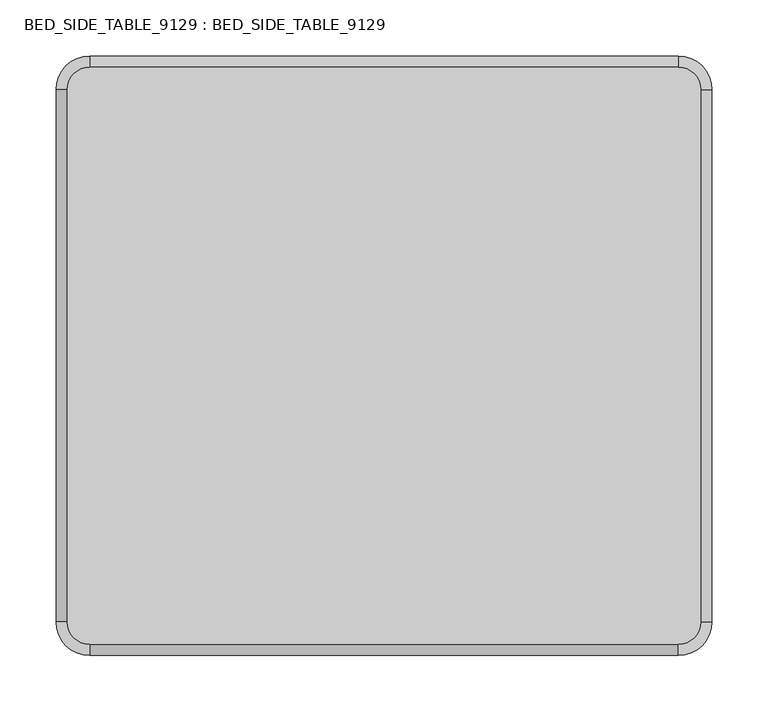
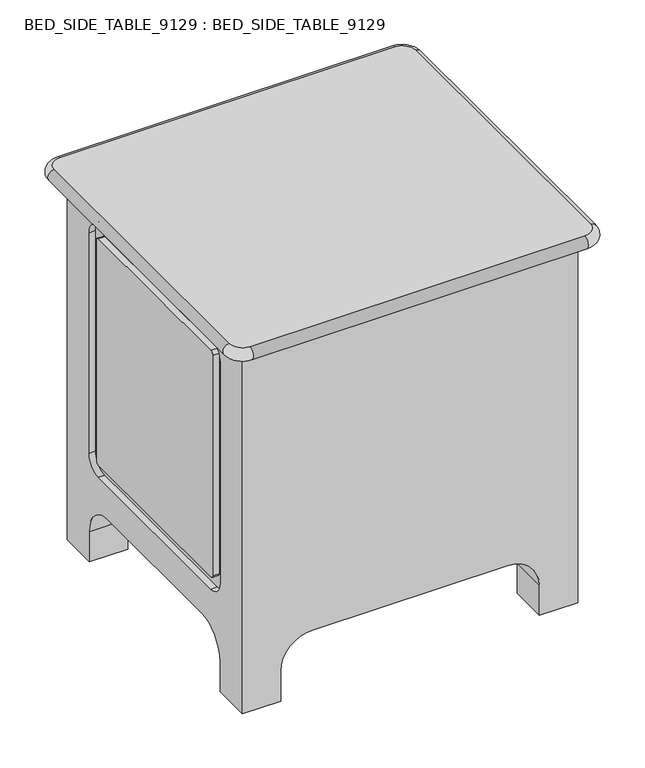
"""IFC4 building model written with IfcOpenShell, lengths in millimetres: furniture geometry, BED_SIDE_TABLE_9129 : BED_SIDE_TABLE_9129."""

from ifc_helpers import new_model, si_unit, point, frame, origin, place, context, project, spatial, polyline, circle_curve, ellipse_curve, trimmed, source, transform, mapped, element, save
from ifc_brep_helpers import plane_surface, cylinder_surface, revolved_surface, advanced_brep


def bed_side_table_9129_bed_side_table_9129_c77a05bd(model_context):
    return source(origin(), model_context, "Body", "AdvancedBrep", [
        advanced_brep(
        [(64.1710576, 215.7220246, 258.3333333), (64.1710576, 215.7220246, 250.9546193), (64.1710576, 215.7220246, 265.7120474), (11.6566154, 215.7220246, 250.9546193), (11.6566154, 215.7220246, 258.3333333), (11.6566154, 215.7220246, 265.7120474)],
        [
            (0, 1),
            (1, 2, circle_curve(frame((64.1710576, 215.7220246, 258.3333333), z_axis=(1.0, 0.0, 0.0), x_axis=(0.0, 0.0, 1.0)), 7.378714)),
            (2, 0),
            (2, 1, circle_curve(frame((64.1710576, 215.7220246, 258.3333333), z_axis=(1.0, 0.0, 0.0), x_axis=(0.0, 0.0, 1.0)), 7.378714)),
            (3, 4),
            (4, 5),
            (5, 3, circle_curve(frame((11.6566154, 215.7220246, 258.3333333), z_axis=(-1.0, 0.0, 0.0), x_axis=(0.0, 0.0, 1.0)), 7.378714)),
            (3, 5, circle_curve(frame((11.6566154, 215.7220246, 258.3333333), z_axis=(-1.0, 0.0, 0.0), x_axis=(0.0, 0.0, 1.0)), 7.378714)),
            (1, 3),
            (5, 2),
        ],
        [
            plane_surface(frame((64.1710576, 215.7220246, 258.3333333), z_axis=(1.0, 0.0, 0.0), x_axis=(0.0, 0.0, 1.0))),
            plane_surface(frame((11.6566154, 215.7220246, 258.3333333), z_axis=(-1.0, 0.0, 0.0), x_axis=(0.0, 0.0, 1.0))),
            cylinder_surface(frame((36.6566154, 215.7220246, 258.3333333), z_axis=(1.0, 0.0, 0.0), x_axis=(0.0, 0.0, 1.0)), 7.378714),
        ],
        [
            (0, [[1, 2, 3]]),
            (0, [[-3, 4, -1]]),
            (1, [[5, 6, 7]]),
            (1, [[-6, -5, 8]]),
            (2, [[9, -7, 10, -2]]),
            (2, [[-10, -8, -9, -4]]),
        ],
    ),
        advanced_brep(
        [(64.1710576, 215.7220246, 396.6666667), (64.1710576, 215.7220246, 389.2879526), (64.1710576, 215.7220246, 404.0453807), (11.6566154, 215.7220246, 389.2879526), (11.6566154, 215.7220246, 396.6666667), (11.6566154, 215.7220246, 404.0453807)],
        [
            (0, 1),
            (1, 2, circle_curve(frame((64.1710576, 215.7220246, 396.6666667), z_axis=(1.0, 0.0, 0.0), x_axis=(0.0, 0.0, 1.0)), 7.378714)),
            (2, 0),
            (2, 1, circle_curve(frame((64.1710576, 215.7220246, 396.6666667), z_axis=(1.0, 0.0, 0.0), x_axis=(0.0, 0.0, 1.0)), 7.378714)),
            (3, 4),
            (4, 5),
            (5, 3, circle_curve(frame((11.6566154, 215.7220246, 396.6666667), z_axis=(-1.0, 0.0, 0.0), x_axis=(0.0, 0.0, 1.0)), 7.378714)),
            (3, 5, circle_curve(frame((11.6566154, 215.7220246, 396.6666667), z_axis=(-1.0, 0.0, 0.0), x_axis=(0.0, 0.0, 1.0)), 7.378714)),
            (1, 3),
            (5, 2),
        ],
        [
            plane_surface(frame((64.1710576, 215.7220246, 396.6666667), z_axis=(1.0, 0.0, 0.0), x_axis=(0.0, 0.0, 1.0))),
            plane_surface(frame((11.6566154, 215.7220246, 396.6666667), z_axis=(-1.0, 0.0, 0.0), x_axis=(0.0, 0.0, 1.0))),
            cylinder_surface(frame((36.6566154, 215.7220246, 396.6666667), z_axis=(1.0, 0.0, 0.0), x_axis=(0.0, 0.0, 1.0)), 7.378714),
        ],
        [
            (0, [[1, 2, 3]]),
            (0, [[-3, 4, -1]]),
            (1, [[5, 6, 7]]),
            (1, [[-6, -5, 8]]),
            (2, [[9, -7, 10, -2]]),
            (2, [[-10, -8, -9, -4]]),
        ],
    ),
        advanced_brep(
        [(64.1710576, 215.7220246, 535.0), (64.1710576, 215.7220246, 527.621286), (64.1710576, 215.7220246, 542.378714), (11.6566154, 215.7220246, 527.621286), (11.6566154, 215.7220246, 535.0), (11.6566154, 215.7220246, 542.378714)],
        [
            (0, 1),
            (1, 2, circle_curve(frame((64.1710576, 215.7220246, 535.0), z_axis=(1.0, 0.0, 0.0), x_axis=(0.0, 0.0, 1.0)), 7.378714)),
            (2, 0),
            (2, 1, circle_curve(frame((64.1710576, 215.7220246, 535.0), z_axis=(1.0, 0.0, 0.0), x_axis=(0.0, 0.0, 1.0)), 7.378714)),
            (3, 4),
            (4, 5),
            (5, 3, circle_curve(frame((11.6566154, 215.7220246, 535.0), z_axis=(-1.0, 0.0, 0.0), x_axis=(0.0, 0.0, 1.0)), 7.378714)),
            (3, 5, circle_curve(frame((11.6566154, 215.7220246, 535.0), z_axis=(-1.0, 0.0, 0.0), x_axis=(0.0, 0.0, 1.0)), 7.378714)),
            (1, 3),
            (5, 2),
        ],
        [
            plane_surface(frame((64.1710576, 215.7220246, 535.0), z_axis=(1.0, 0.0, 0.0), x_axis=(0.0, 0.0, 1.0))),
            plane_surface(frame((11.6566154, 215.7220246, 535.0), z_axis=(-1.0, 0.0, 0.0), x_axis=(0.0, 0.0, 1.0))),
            cylinder_surface(frame((36.6566154, 215.7220246, 535.0), z_axis=(1.0, 0.0, 0.0), x_axis=(0.0, 0.0, 1.0)), 7.378714),
        ],
        [
            (0, [[1, 2, 3]]),
            (0, [[-3, 4, -1]]),
            (1, [[5, 6, 7]]),
            (1, [[-6, -5, 8]]),
            (2, [[9, -7, 10, -2]]),
            (2, [[-10, -8, -9, -4]]),
        ],
    ),
        advanced_brep(
        [(242.5, 190.0292073, 565.0), (-162.5, 190.0292073, 565.0), (-162.5, 190.0292073, 436.6666667), (242.5, 190.0292073, 436.6666667), (-143.0943818, 210.0292073, 545.5943818), (223.0943818, 210.0292073, 545.5943818), (223.0943818, 210.0292073, 456.0722849), (-143.0943818, 210.0292073, 456.0722849), (242.5, 194.8688336, 436.6666667), (242.5, 194.8688336, 565.0), (-162.5, 194.8688336, 436.6666667), (-162.5, 194.8688336, 565.0)],
        [
            (0, 1),
            (1, 2),
            (2, 3),
            (3, 0),
            (4, 5),
            (5, 6),
            (6, 7),
            (7, 4),
            (3, 8),
            (8, 9),
            (9, 0),
            (2, 10),
            (10, 8),
            (1, 11),
            (11, 10),
            (9, 11),
            (11, 4, ellipse_curve(frame((-143.0943818, 190.0292073, 545.5943818), z_axis=(-0.7071067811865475, 0.0, -0.7071067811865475), x_axis=(0.7071067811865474, 0.0, -0.7071067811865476)), 28.2842712, 20.0)),
            (7, 10, ellipse_curve(frame((-143.0943818, 190.0292073, 456.0722849), z_axis=(-0.7071067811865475, 0.0, 0.7071067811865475), x_axis=(-0.7071067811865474, 0.0, -0.7071067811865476)), 28.2842712, 20.0)),
            (6, 8, ellipse_curve(frame((223.0943818, 190.0292073, 456.0722849), z_axis=(-0.7071067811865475, 0.0, -0.7071067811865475), x_axis=(0.7071067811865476, 0.0, -0.7071067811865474)), 28.2842712, 20.0)),
            (5, 9, ellipse_curve(frame((223.0943818, 190.0292073, 545.5943818), z_axis=(0.7071067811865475, 0.0, -0.7071067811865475), x_axis=(0.7071067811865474, 0.0, 0.7071067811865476)), 28.2842712, 20.0)),
        ],
        [
            plane_surface(frame((242.5, 190.0292073, 565.0), z_axis=(0.0, -1.0, 0.0), x_axis=(0.0, 0.0, -1.0))),
            plane_surface(frame((242.5, 210.0292073, 565.0), z_axis=(0.0, 1.0, 0.0), x_axis=(0.0, 0.0, 1.0))),
            plane_surface(frame((242.5, 190.0292073, 565.0), z_axis=(1.0, 0.0, 0.0), x_axis=(0.0, 1.0, 0.0))),
            plane_surface(frame((242.5, 190.0292073, 436.6666667), z_axis=(0.0, 0.0, -1.0), x_axis=(0.0, 1.0, 0.0))),
            plane_surface(frame((-162.5, 190.0292073, 436.6666667), z_axis=(-1.0, 0.0, 0.0), x_axis=(0.0, 1.0, 0.0))),
            plane_surface(frame((-162.5, 190.0292073, 565.0), z_axis=(0.0, 0.0, 1.0), x_axis=(0.0, 1.0, 0.0))),
            cylinder_surface(frame((-143.0943818, 190.0292073, 565.0), z_axis=(0.0, 0.0, -1.0), x_axis=(0.0, 1.0, 0.0)), 20.0),
            cylinder_surface(frame((-162.5, 190.0292073, 456.0722849), z_axis=(1.0, 0.0, 0.0), x_axis=(0.0, 1.0, 0.0)), 20.0),
            cylinder_surface(frame((223.0943818, 190.0292073, 436.6666667), z_axis=(0.0, 0.0, 1.0), x_axis=(0.0, 1.0, 0.0)), 20.0),
            cylinder_surface(frame((242.5, 190.0292073, 545.5943818), z_axis=(-1.0, 0.0, 0.0), x_axis=(0.0, 1.0, 0.0)), 20.0),
        ],
        [
            (0, [[1, 2, 3, 4]]),
            (1, [[5, 6, 7, 8]]),
            (2, [[9, 10, 11, -4]]),
            (3, [[12, 13, -9, -3]]),
            (4, [[14, 15, -12, -2]]),
            (5, [[-11, 16, -14, -1]]),
            (6, [[-15, 17, -8, 18]]),
            (7, [[-13, -18, -7, 19]]),
            (8, [[-10, -19, -6, 20]]),
            (9, [[-5, -17, -16, -20]]),
        ],
    ),
        advanced_brep(
        [(-162.5, 190.0292073, 298.3333333), (242.5, 190.0292073, 298.3333333), (242.5, 190.0292073, 426.6666667), (-162.5, 190.0292073, 426.6666667), (-142.5, 210.0292073, 406.6666667), (222.5, 210.0292073, 406.6666667), (222.5, 210.0292073, 318.3333333), (-142.5, 210.0292073, 318.3333333)],
        [
            (0, 1),
            (1, 2),
            (2, 3),
            (3, 0),
            (4, 5),
            (5, 6),
            (6, 7),
            (7, 4),
            (3, 4, ellipse_curve(frame((-142.5, 190.0292073, 406.6666667), z_axis=(-0.7071067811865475, 0.0, -0.7071067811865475), x_axis=(0.7071067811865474, 0.0, -0.7071067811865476)), 28.2842712, 20.0)),
            (7, 0, ellipse_curve(frame((-142.5, 190.0292073, 318.3333333), z_axis=(-0.7071067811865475, 0.0, 0.7071067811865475), x_axis=(-0.7071067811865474, 0.0, -0.7071067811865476)), 28.2842712, 20.0)),
            (6, 1, ellipse_curve(frame((222.5, 190.0292073, 318.3333333), z_axis=(-0.7071067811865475, 0.0, -0.7071067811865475), x_axis=(0.7071067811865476, 0.0, -0.7071067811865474)), 28.2842712, 20.0)),
            (5, 2, ellipse_curve(frame((222.5, 190.0292073, 406.6666667), z_axis=(0.7071067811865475, 0.0, -0.7071067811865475), x_axis=(0.7071067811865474, 0.0, 0.7071067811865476)), 28.2842712, 20.0)),
        ],
        [
            plane_surface(frame((242.5, 190.0292073, 565.0), z_axis=(0.0, -1.0, 0.0), x_axis=(0.0, 0.0, -1.0))),
            plane_surface(frame((242.5, 210.0292073, 565.0), z_axis=(0.0, 1.0, 0.0), x_axis=(0.0, 0.0, 1.0))),
            cylinder_surface(frame((-142.5, 190.0292073, 426.6666667), z_axis=(0.0, 0.0, -1.0), x_axis=(0.0, 1.0, 0.0)), 20.0),
            cylinder_surface(frame((-162.5, 190.0292073, 318.3333333), z_axis=(1.0, 0.0, 0.0), x_axis=(0.0, 1.0, 0.0)), 20.0),
            cylinder_surface(frame((222.5, 190.0292073, 298.3333333), z_axis=(0.0, 0.0, 1.0), x_axis=(0.0, 1.0, 0.0)), 20.0),
            cylinder_surface(frame((242.5, 190.0292073, 406.6666667), z_axis=(-1.0, 0.0, 0.0), x_axis=(0.0, 1.0, 0.0)), 20.0),
        ],
        [
            (0, [[1, 2, 3, 4]]),
            (1, [[5, 6, 7, 8]]),
            (2, [[-4, 9, -8, 10]]),
            (3, [[-7, 11, -1, -10]]),
            (4, [[-6, 12, -2, -11]]),
            (5, [[-3, -12, -5, -9]]),
        ],
    ),
        advanced_brep(
        [(-162.5, 190.0292073, 155.0), (242.5, 190.0292073, 155.0), (242.5, 190.0292073, 288.3333333), (-162.5, 190.0292073, 288.3333333), (-142.5, 210.0292073, 268.3333333), (222.5, 210.0292073, 268.3333333), (222.5, 210.0292073, 175.0), (-142.5, 210.0292073, 175.0)],
        [
            (0, 1),
            (1, 2),
            (2, 3),
            (3, 0),
            (4, 5),
            (5, 6),
            (6, 7),
            (7, 4),
            (3, 4, ellipse_curve(frame((-142.5, 190.0292073, 268.3333333), z_axis=(-0.707106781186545, 0.0, -0.7071067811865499), x_axis=(0.7071067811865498, 0.0, -0.7071067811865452)), 28.2842712, 20.0)),
            (7, 0, ellipse_curve(frame((-142.5, 190.0292073, 175.0), z_axis=(-0.7071067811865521, 0.0, 0.7071067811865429), x_axis=(-0.7071067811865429, 0.0, -0.7071067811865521)), 28.2842712, 20.0)),
            (6, 1, ellipse_curve(frame((222.5, 190.0292073, 175.0), z_axis=(-0.7071067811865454, 0.0, -0.7071067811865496), x_axis=(0.7071067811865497, 0.0, -0.7071067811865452)), 28.2842712, 20.0)),
            (5, 2, ellipse_curve(frame((222.5, 190.0292073, 268.3333333), z_axis=(0.7071067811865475, 0.0, -0.7071067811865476), x_axis=(0.7071067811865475, 0.0, 0.7071067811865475)), 28.2842712, 20.0)),
        ],
        [
            plane_surface(frame((242.5, 190.0292073, 565.0), z_axis=(0.0, -1.0, 0.0), x_axis=(0.0, 0.0, -1.0))),
            plane_surface(frame((242.5, 210.0292073, 565.0), z_axis=(0.0, 1.0, 0.0), x_axis=(0.0, 0.0, 1.0))),
            cylinder_surface(frame((-142.5, 190.0292073, 288.3333333), z_axis=(0.0, 0.0, -1.0), x_axis=(0.0, 1.0, 0.0)), 20.0),
            cylinder_surface(frame((-162.5, 190.0292073, 175.0), z_axis=(1.0, 0.0, 0.0), x_axis=(0.0, 1.0, 0.0)), 20.0),
            cylinder_surface(frame((222.5, 190.0292073, 155.0), z_axis=(0.0, 0.0, 1.0), x_axis=(0.0, 1.0, 0.0)), 20.0),
            cylinder_surface(frame((242.5, 190.0292073, 268.3333333), z_axis=(-1.0, 0.0, 0.0), x_axis=(0.0, 1.0, 0.0)), 20.0),
        ],
        [
            (0, [[1, 2, 3, 4]]),
            (1, [[5, 6, 7, 8]]),
            (2, [[-4, 9, -8, 10]]),
            (3, [[-7, 11, -1, -10]]),
            (4, [[-6, 12, -2, -11]]),
            (5, [[-3, -12, -5, -9]]),
        ],
    ),
        advanced_brep(
        [(-242.5, -274.9707927, 600.0), (-242.5, 200.0292073, 600.0), (-222.5, 220.0292073, 600.0), (302.5, 220.0292073, 600.0), (322.5, 200.0292073, 600.0), (322.5, -274.9707927, 600.0), (302.5, -294.9707927, 600.0), (-222.5, -294.9707927, 600.0), (-222.5, -294.9707927, 620.0), (302.5, -294.9707927, 620.0), (322.5, -274.9707927, 620.0), (322.5, 200.0292073, 620.0), (302.5, 220.0292073, 620.0), (-222.5, 220.0292073, 620.0), (-242.5, 200.0292073, 620.0), (-242.5, -274.9707927, 620.0), (-252.5, -274.9707927, 610.0000126), (-222.5, -304.9707927, 610.0000125), (-252.5, 200.0292073, 610.0), (-222.5, 230.0292073, 610.0000126), (302.5, 230.0292073, 610.0), (332.5, 200.0292073, 610.0000125), (332.5, -274.9707927, 610.0), (302.5, -304.9707927, 610.00001)],
        [
            (0, 1),
            (1, 2, circle_curve(frame((-222.5, 200.0292073, 600.0), z_axis=(0.0, 0.0, -1.0), x_axis=(-1.0, 0.0, 0.0)), 20.0)),
            (2, 3),
            (3, 4, circle_curve(frame((302.5, 200.0292073, 600.0), z_axis=(0.0, 0.0, -1.0), x_axis=(0.0, 1.0, 0.0)), 20.0)),
            (4, 5),
            (5, 6, circle_curve(frame((302.5, -274.9707927, 600.0), z_axis=(0.0, 0.0, -1.0), x_axis=(1.0, 0.0, 0.0)), 20.0)),
            (6, 7),
            (7, 0, circle_curve(frame((-222.5, -274.9707927, 600.0), z_axis=(0.0, 0.0, -1.0), x_axis=(0.0, -1.0, 0.0)), 20.0)),
            (8, 9),
            (9, 10, circle_curve(frame((302.5, -274.9707927, 620.0), z_axis=(0.0, 0.0, 1.0), x_axis=(1.0, 0.0, 0.0)), 20.0)),
            (10, 11),
            (11, 12, circle_curve(frame((302.5, 200.0292073, 620.0), z_axis=(0.0, 0.0, 1.0), x_axis=(0.0, 1.0, 0.0)), 20.0)),
            (12, 13),
            (13, 14, circle_curve(frame((-222.5, 200.0292073, 620.0), z_axis=(0.0, 0.0, 1.0), x_axis=(-1.0, 0.0, 0.0)), 20.0)),
            (14, 15),
            (15, 8, circle_curve(frame((-222.5, -274.9707927, 620.0), z_axis=(0.0, 0.0, 1.0), x_axis=(0.0, -1.0, 0.0)), 20.0)),
            (15, 16, circle_curve(frame((-242.5, -274.9707927, 610.0), z_axis=(0.0, -1.0, 0.0), x_axis=(1.0, 0.0, 0.0)), 10.0)),
            (16, 0, circle_curve(frame((-242.5, -274.9707927, 610.0), z_axis=(0.0, -1.0, 0.0), x_axis=(1.0, 0.0, 0.0)), 10.0)),
            (7, 17, circle_curve(frame((-222.5, -294.9707927, 610.0), z_axis=(-1.0, 0.0, 0.0), x_axis=(0.0, 1.0, 0.0)), 10.0)),
            (17, 8, circle_curve(frame((-222.5, -294.9707927, 610.0), z_axis=(-1.0, 0.0, 0.0), x_axis=(0.0, 1.0, 0.0)), 10.0)),
            (14, 18, circle_curve(frame((-242.5, 200.0292073, 610.0), z_axis=(0.0, -1.0, 0.0), x_axis=(1.0, 0.0, 0.0)), 10.0)),
            (18, 1, circle_curve(frame((-242.5, 200.0292073, 610.0), z_axis=(0.0, -1.0, 0.0), x_axis=(1.0, 0.0, 0.0)), 10.0)),
            (13, 19, circle_curve(frame((-222.5, 220.0292073, 610.0), z_axis=(-1.0, 0.0, 0.0), x_axis=(0.0, -1.0, 0.0)), 10.0)),
            (19, 2, circle_curve(frame((-222.5, 220.0292073, 610.0), z_axis=(-1.0, 0.0, 0.0), x_axis=(0.0, -1.0, 0.0)), 10.0)),
            (12, 20, circle_curve(frame((302.5, 220.0292073, 610.0), z_axis=(-1.0, 0.0, 0.0), x_axis=(0.0, -1.0, 0.0)), 10.0)),
            (20, 3, circle_curve(frame((302.5, 220.0292073, 610.0), z_axis=(-1.0, 0.0, 0.0), x_axis=(0.0, -1.0, 0.0)), 10.0)),
            (11, 21, circle_curve(frame((322.5, 200.0292073, 610.0), z_axis=(0.0, 1.0, 0.0), x_axis=(-1.0, 0.0, 0.0)), 10.0)),
            (21, 4, circle_curve(frame((322.5, 200.0292073, 610.0), z_axis=(0.0, 1.0, 0.0), x_axis=(-1.0, 0.0, 0.0)), 10.0)),
            (10, 22, circle_curve(frame((322.5, -274.9707927, 610.0), z_axis=(0.0, 1.0, 0.0), x_axis=(-1.0, 0.0, 0.0)), 10.0)),
            (22, 5, circle_curve(frame((322.5, -274.9707927, 610.0), z_axis=(0.0, 1.0, 0.0), x_axis=(-1.0, 0.0, 0.0)), 10.0)),
            (9, 23, circle_curve(frame((302.5, -294.9707927, 610.0), z_axis=(1.0, 0.0, 0.0), x_axis=(0.0, 1.0, 0.0)), 10.0)),
            (23, 6, circle_curve(frame((302.5, -294.9707927, 610.0), z_axis=(1.0, 0.0, 0.0), x_axis=(0.0, 1.0, 0.0)), 10.0)),
        ],
        [
            plane_surface(frame((-222.5, -304.9707927, 600.0), z_axis=(0.0, 0.0, -1.0), x_axis=(1.0, 0.0, 0.0))),
            plane_surface(frame((-222.5, -304.9707927, 620.0), z_axis=(0.0, 0.0, 1.0), x_axis=(-1.0, 0.0, 0.0))),
            revolved_surface(trimmed(ellipse_curve(frame((-222.5, -294.9707927, 610.0), z_axis=(-1.0, 0.0, 0.0), x_axis=(0.0, 1.0, 0.0)), 10.0, 10.0), [point((-222.5, -294.9707927, 600.0))], [point((-222.5, -294.9707927, 620.0))], True, "CARTESIAN"), (-222.5, -274.9707927, 620.0), (0.0, 0.0, 1.0)),
            cylinder_surface(frame((-242.5, -274.9707927, 610.0), z_axis=(0.0, 1.0, 0.0), x_axis=(1.0, 0.0, 0.0)), 10.0),
            revolved_surface(trimmed(ellipse_curve(frame((-242.5, 200.0292073, 610.0), z_axis=(0.0, 1.0, 0.0), x_axis=(1.0, 0.0, 0.0)), 10.0, 10.0), [point((-242.5, 200.0292073, 600.0))], [point((-242.5, 200.0292073, 620.0))], True, "CARTESIAN"), (-222.5, 200.0292073, 620.0), (0.0, 0.0, 1.0)),
            cylinder_surface(frame((-222.5, 220.0292073, 610.0), z_axis=(1.0, 0.0, 0.0), x_axis=(0.0, -1.0, 0.0)), 10.0),
            revolved_surface(trimmed(ellipse_curve(frame((302.5, 220.0292073, 610.0), z_axis=(1.0, 0.0, 0.0), x_axis=(0.0, -1.0, 0.0)), 10.0, 10.0), [point((302.5, 220.0292073, 600.0))], [point((302.5, 220.0292073, 620.0))], True, "CARTESIAN"), (302.5, 200.0292073, 620.0), (0.0, 0.0, 1.0)),
            cylinder_surface(frame((322.5, 200.0292073, 610.0), z_axis=(0.0, -1.0, 0.0), x_axis=(-1.0, 0.0, 0.0)), 10.0),
            revolved_surface(trimmed(ellipse_curve(frame((322.5, -274.9707927, 610.0), z_axis=(0.0, -1.0, 0.0), x_axis=(-1.0, 0.0, 0.0)), 10.0, 10.0), [point((322.5, -274.9707927, 600.0))], [point((322.5, -274.9707927, 620.0))], True, "CARTESIAN"), (302.5, -274.9707927, 620.0), (0.0, 0.0, 1.0)),
            cylinder_surface(frame((302.5, -294.9707927, 610.0), z_axis=(-1.0, 0.0, 0.0), x_axis=(0.0, 1.0, 0.0)), 10.0),
        ],
        [
            (0, [[1, 2, 3, 4, 5, 6, 7, 8]]),
            (1, [[9, 10, 11, 12, 13, 14, 15, 16]]),
            (2, [[-16, 17, 18, -8, 19, 20]]),
            (3, [[-17, -15, 21, 22, -1, -18]]),
            (4, [[-21, -14, 23, 24, -2, -22]]),
            (5, [[-23, -13, 25, 26, -3, -24]]),
            (6, [[-25, -12, 27, 28, -4, -26]]),
            (7, [[-27, -11, 29, 30, -5, -28]]),
            (8, [[-6, -30, -29, -10, 31, 32]]),
            (9, [[-31, -9, -20, -19, -7, -32]]),
        ],
    ),
        advanced_brep(
        [(302.5, -274.9707927, 600.0), (-222.5, -274.9707927, 600.0), (-222.5, -274.9707927, 0.0), (-162.5, -274.9707927, 0.0), (-162.5, -274.9707927, 50.0), (-112.5, -274.9707927, 100.0), (192.5, -274.9707927, 100.0), (242.5, -274.9707927, 50.0), (242.5, -274.9707927, 0.0), (302.5, -274.9707927, 0.0), (302.5, 200.0292073, 600.0), (302.5, 200.0292073, 0.0), (242.5, 200.0292073, 0.0), (242.5, 200.0292073, 50.0), (192.5, 200.0292073, 100.0), (-112.5, 200.0292073, 100.0), (-162.5, 200.0292073, 50.0), (-162.5, 200.0292073, 0.0), (-222.5, 200.0292073, 0.0), (-222.5, 200.0292073, 600.0), (-182.5, 200.0292073, 580.0), (-182.5, 200.0292073, 130.0), (262.5, 200.0292073, 130.0), (262.5, 200.0292073, 580.0), (302.5, -214.9707927, 0.0), (302.5, -214.9707927, 50.0), (302.5, -164.9707927, 100.0), (302.5, 90.0292073, 100.0), (302.5, 140.0292073, 50.0), (302.5, 140.0292073, 0.0), (302.5, 115.0292073, 570.0), (302.5, 140.0292073, 545.0), (302.5, 140.0292073, 180.0), (302.5, 115.0292073, 155.0), (302.5, -189.9707927, 155.0), (302.5, -214.9707927, 180.0), (302.5, -214.9707927, 545.0), (302.5, -189.9707927, 570.0), (302.5, -189.9707927, 550.0), (302.5, -194.9707927, 545.0), (302.5, -194.9707927, 180.0), (302.5, -189.9707927, 175.0), (302.5, 115.0292073, 175.0), (302.5, 120.0292073, 180.0), (302.5, 120.0292073, 545.0), (302.5, 115.0292073, 550.0), (242.5, 140.0292073, 0.0), (-162.5, 140.0292073, 0.0), (-222.5, 140.0292073, 0.0), (242.5, -214.9707927, 0.0), (-222.5, -214.9707927, 0.0), (-162.5, -214.9707927, 0.0), (-222.5, 140.0292073, 50.0), (-222.5, 90.0292073, 100.0), (-222.5, -164.9707927, 100.0), (-222.5, -214.9707927, 50.0), (-222.5, -189.9707927, 570.0), (-222.5, -214.9707927, 545.0), (-222.5, -214.9707927, 180.0), (-222.5, -189.9707927, 155.0), (-222.5, 115.0292073, 155.0), (-222.5, 140.0292073, 180.0), (-222.5, 140.0292073, 545.0), (-222.5, 115.0292073, 570.0), (-222.5, 115.0292073, 550.0), (-222.5, 120.0292073, 545.0), (-222.5, 120.0292073, 180.0), (-222.5, 115.0292073, 175.0), (-222.5, -189.9707927, 175.0), (-222.5, -194.9707927, 180.0), (-222.5, -194.9707927, 545.0), (-222.5, -189.9707927, 550.0), (-112.5, 90.0292073, 100.0), (-162.5, 140.0292073, 50.0), (-162.5, -214.9707927, 50.0), (-112.5, -164.9707927, 100.0), (192.5, 90.0292073, 100.0), (192.5, -164.9707927, 100.0), (242.5, -214.9707927, 50.0), (242.5, 140.0292073, 50.0), (-182.5, 190.0292073, 580.0), (262.5, 190.0292073, 580.0), (262.5, 190.0292073, 130.0), (-182.5, 190.0292073, 130.0), (292.5, -189.9707927, 570.0), (292.5, -214.9707927, 545.0), (292.5, -214.9707927, 180.0), (292.5, -189.9707927, 155.0), (292.5, 115.0292073, 155.0), (292.5, 140.0292073, 180.0), (292.5, 140.0292073, 545.0), (292.5, 115.0292073, 570.0), (292.5, 115.0292073, 550.0), (292.5, 120.0292073, 545.0), (292.5, 120.0292073, 180.0), (292.5, 115.0292073, 175.0), (292.5, -189.9707927, 175.0), (292.5, -194.9707927, 180.0), (292.5, -194.9707927, 545.0), (292.5, -189.9707927, 550.0), (-212.5, -189.9707927, 570.0), (-212.5, 115.0292073, 570.0), (-212.5, 140.0292073, 545.0), (-212.5, 140.0292073, 180.0), (-212.5, 115.0292073, 155.0), (-212.5, -189.9707927, 155.0), (-212.5, -214.9707927, 180.0), (-212.5, -214.9707927, 545.0), (-212.5, 115.0292073, 550.0), (-212.5, -189.9707927, 550.0), (-212.5, -194.9707927, 545.0), (-212.5, -194.9707927, 180.0), (-212.5, -189.9707927, 175.0), (-212.5, 115.0292073, 175.0), (-212.5, 120.0292073, 180.0), (-212.5, 120.0292073, 545.0)],
        [
            (0, 1),
            (1, 2),
            (2, 3),
            (3, 4),
            (4, 5, circle_curve(frame((-112.5, -274.9707927, 50.0), z_axis=(0.0, 1.0, 0.0), x_axis=(-1.0, 0.0, 0.0)), 50.0)),
            (5, 6),
            (6, 7, circle_curve(frame((192.5, -274.9707927, 50.0), z_axis=(0.0, 1.0, 0.0), x_axis=(-1.0, 0.0, 0.0)), 50.0)),
            (7, 8),
            (8, 9),
            (9, 0),
            (10, 11),
            (11, 12),
            (12, 13),
            (13, 14, circle_curve(frame((192.5, 200.0292073, 50.0), z_axis=(0.0, -1.0, 0.0), x_axis=(-1.0, 0.0, 0.0)), 50.0)),
            (14, 15),
            (15, 16, circle_curve(frame((-112.5, 200.0292073, 50.0), z_axis=(0.0, -1.0, 0.0), x_axis=(-1.0, 0.0, 0.0)), 50.0)),
            (16, 17),
            (17, 18),
            (18, 19),
            (19, 10),
            (20, 21),
            (21, 22),
            (22, 23),
            (23, 20),
            (9, 24),
            (24, 25),
            (25, 26, circle_curve(frame((302.5, -164.9707927, 50.0), z_axis=(-1.0, 0.0, 0.0), x_axis=(0.0, -1.0, 0.0)), 50.0)),
            (26, 27),
            (27, 28, circle_curve(frame((302.5, 90.0292073, 50.0), z_axis=(-1.0, 0.0, 0.0), x_axis=(0.0, -1.0, 0.0)), 50.0)),
            (28, 29),
            (29, 11),
            (10, 0),
            (30, 31, circle_curve(frame((302.5, 115.0292073, 545.0), z_axis=(-1.0, 0.0, 0.0), x_axis=(0.0, -1.0, 0.0)), 25.0)),
            (31, 32),
            (32, 33, circle_curve(frame((302.5, 115.0292073, 180.0), z_axis=(-1.0, 0.0, 0.0), x_axis=(0.0, -1.0, 0.0)), 25.0)),
            (33, 34),
            (34, 35, circle_curve(frame((302.5, -189.9707927, 180.0), z_axis=(-1.0, 0.0, 0.0), x_axis=(0.0, -1.0, 0.0)), 25.0)),
            (35, 36),
            (36, 37, circle_curve(frame((302.5, -189.9707927, 545.0), z_axis=(-1.0, 0.0, 0.0), x_axis=(0.0, -1.0, 0.0)), 25.0)),
            (37, 30),
            (38, 39, circle_curve(frame((302.5, -189.9707927, 545.0), z_axis=(1.0, 0.0, 0.0), x_axis=(0.0, -1.0, 0.0)), 5.0)),
            (39, 40),
            (40, 41, circle_curve(frame((302.5, -189.9707927, 180.0), z_axis=(1.0, 0.0, 0.0), x_axis=(0.0, -1.0, 0.0)), 5.0)),
            (41, 42),
            (42, 43, circle_curve(frame((302.5, 115.0292073, 180.0), z_axis=(1.0, 0.0, 0.0), x_axis=(0.0, -1.0, 0.0)), 5.0)),
            (43, 44),
            (44, 45, circle_curve(frame((302.5, 115.0292073, 545.0), z_axis=(1.0, 0.0, 0.0), x_axis=(0.0, -1.0, 0.0)), 5.0)),
            (45, 38),
            (29, 46),
            (46, 12),
            (17, 47),
            (47, 48),
            (48, 18),
            (8, 49),
            (49, 24),
            (2, 50),
            (50, 51),
            (51, 3),
            (1, 19),
            (48, 52),
            (52, 53, circle_curve(frame((-222.5, 90.0292073, 50.0), z_axis=(1.0, 0.0, 0.0), x_axis=(0.0, -1.0, 0.0)), 50.0)),
            (53, 54),
            (54, 55, circle_curve(frame((-222.5, -164.9707927, 50.0), z_axis=(1.0, 0.0, 0.0), x_axis=(0.0, -1.0, 0.0)), 50.0)),
            (55, 50),
            (56, 57, circle_curve(frame((-222.5, -189.9707927, 545.0), z_axis=(1.0, 0.0, 0.0), x_axis=(0.0, -1.0, 0.0)), 25.0)),
            (57, 58),
            (58, 59, circle_curve(frame((-222.5, -189.9707927, 180.0), z_axis=(1.0, 0.0, 0.0), x_axis=(0.0, -1.0, 0.0)), 25.0)),
            (59, 60),
            (60, 61, circle_curve(frame((-222.5, 115.0292073, 180.0), z_axis=(1.0, 0.0, 0.0), x_axis=(0.0, -1.0, 0.0)), 25.0)),
            (61, 62),
            (62, 63, circle_curve(frame((-222.5, 115.0292073, 545.0), z_axis=(1.0, 0.0, 0.0), x_axis=(0.0, -1.0, 0.0)), 25.0)),
            (63, 56),
            (64, 65, circle_curve(frame((-222.5, 115.0292073, 545.0), z_axis=(-1.0, 0.0, 0.0), x_axis=(0.0, -1.0, 0.0)), 5.0)),
            (65, 66),
            (66, 67, circle_curve(frame((-222.5, 115.0292073, 180.0), z_axis=(-1.0, 0.0, 0.0), x_axis=(0.0, -1.0, 0.0)), 5.0)),
            (67, 68),
            (68, 69, circle_curve(frame((-222.5, -189.9707927, 180.0), z_axis=(-1.0, 0.0, 0.0), x_axis=(0.0, -1.0, 0.0)), 5.0)),
            (69, 70),
            (70, 71, circle_curve(frame((-222.5, -189.9707927, 545.0), z_axis=(-1.0, 0.0, 0.0), x_axis=(0.0, -1.0, 0.0)), 5.0)),
            (71, 64),
            (15, 72),
            (72, 73, ellipse_curve(frame((-112.5, 90.0292073, 50.0), z_axis=(-0.7071067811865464, -0.7071067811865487, 0.0), x_axis=(0.7071067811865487, -0.7071067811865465, 0.0)), 70.7106781, 50.0)),
            (73, 16),
            (4, 74),
            (74, 75, ellipse_curve(frame((-112.5, -164.9707927, 50.0), z_axis=(-0.7071067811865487, 0.7071067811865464, 0.0), x_axis=(-0.7071067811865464, -0.7071067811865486, 0.0)), 70.7106781, 50.0)),
            (75, 5),
            (75, 54),
            (53, 72),
            (14, 76),
            (76, 27),
            (26, 77),
            (77, 6),
            (77, 78, ellipse_curve(frame((192.5, -164.9707927, 50.0), z_axis=(0.7071067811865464, 0.7071067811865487, 0.0), x_axis=(0.7071067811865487, -0.7071067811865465, 0.0)), 70.7106781, 50.0)),
            (78, 7),
            (13, 79),
            (79, 76, ellipse_curve(frame((192.5, 90.0292073, 50.0), z_axis=(0.7071067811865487, -0.7071067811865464, 0.0), x_axis=(-0.7071067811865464, -0.7071067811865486, 0.0)), 70.7106781, 50.0)),
            (46, 79),
            (78, 49),
            (51, 74),
            (73, 47),
            (52, 73),
            (79, 28),
            (78, 25),
            (55, 74),
            (80, 81),
            (81, 82),
            (82, 83),
            (83, 80),
            (80, 20),
            (23, 81),
            (22, 82),
            (21, 83),
            (84, 85, circle_curve(frame((292.5, -189.9707927, 545.0), z_axis=(1.0, 0.0, 0.0), x_axis=(0.0, -1.0, 0.0)), 25.0)),
            (85, 86),
            (86, 87, circle_curve(frame((292.5, -189.9707927, 180.0), z_axis=(1.0, 0.0, 0.0), x_axis=(0.0, -1.0, 0.0)), 25.0)),
            (87, 88),
            (88, 89, circle_curve(frame((292.5, 115.0292073, 180.0), z_axis=(1.0, 0.0, 0.0), x_axis=(0.0, -1.0, 0.0)), 25.0)),
            (89, 90),
            (90, 91, circle_curve(frame((292.5, 115.0292073, 545.0), z_axis=(1.0, 0.0, 0.0), x_axis=(0.0, -1.0, 0.0)), 25.0)),
            (91, 84),
            (92, 93, circle_curve(frame((292.5, 115.0292073, 545.0), z_axis=(-1.0, 0.0, 0.0), x_axis=(0.0, -1.0, 0.0)), 5.0)),
            (93, 94),
            (94, 95, circle_curve(frame((292.5, 115.0292073, 180.0), z_axis=(-1.0, 0.0, 0.0), x_axis=(0.0, -1.0, 0.0)), 5.0)),
            (95, 96),
            (96, 97, circle_curve(frame((292.5, -189.9707927, 180.0), z_axis=(-1.0, 0.0, 0.0), x_axis=(0.0, -1.0, 0.0)), 5.0)),
            (97, 98),
            (98, 99, circle_curve(frame((292.5, -189.9707927, 545.0), z_axis=(-1.0, 0.0, 0.0), x_axis=(0.0, -1.0, 0.0)), 5.0)),
            (99, 92),
            (91, 30),
            (37, 84),
            (90, 31),
            (89, 32),
            (88, 33),
            (87, 34),
            (86, 35),
            (85, 36),
            (99, 38),
            (45, 92),
            (98, 39),
            (97, 40),
            (96, 41),
            (95, 42),
            (94, 43),
            (93, 44),
            (100, 101),
            (101, 102, circle_curve(frame((-212.5, 115.0292073, 545.0), z_axis=(-1.0, 0.0, 0.0), x_axis=(0.0, -1.0, 0.0)), 25.0)),
            (102, 103),
            (103, 104, circle_curve(frame((-212.5, 115.0292073, 180.0), z_axis=(-1.0, 0.0, 0.0), x_axis=(0.0, -1.0, 0.0)), 25.0)),
            (104, 105),
            (105, 106, circle_curve(frame((-212.5, -189.9707927, 180.0), z_axis=(-1.0, 0.0, 0.0), x_axis=(0.0, -1.0, 0.0)), 25.0)),
            (106, 107),
            (107, 100, circle_curve(frame((-212.5, -189.9707927, 545.0), z_axis=(-1.0, 0.0, 0.0), x_axis=(0.0, -1.0, 0.0)), 25.0)),
            (108, 109),
            (109, 110, circle_curve(frame((-212.5, -189.9707927, 545.0), z_axis=(1.0, 0.0, 0.0), x_axis=(0.0, -1.0, 0.0)), 5.0)),
            (110, 111),
            (111, 112, circle_curve(frame((-212.5, -189.9707927, 180.0), z_axis=(1.0, 0.0, 0.0), x_axis=(0.0, -1.0, 0.0)), 5.0)),
            (112, 113),
            (113, 114, circle_curve(frame((-212.5, 115.0292073, 180.0), z_axis=(1.0, 0.0, 0.0), x_axis=(0.0, -1.0, 0.0)), 5.0)),
            (114, 115),
            (115, 108, circle_curve(frame((-212.5, 115.0292073, 545.0), z_axis=(1.0, 0.0, 0.0), x_axis=(0.0, -1.0, 0.0)), 5.0)),
            (100, 56),
            (63, 101),
            (62, 102),
            (61, 103),
            (60, 104),
            (59, 105),
            (58, 106),
            (57, 107),
            (108, 64),
            (71, 109),
            (70, 110),
            (69, 111),
            (68, 112),
            (67, 113),
            (66, 114),
            (65, 115),
        ],
        [
            plane_surface(frame((302.5, -274.9707927, 600.0), z_axis=(0.0, -1.0, 0.0), x_axis=(0.0, 0.0, -1.0))),
            plane_surface(frame((302.5, 200.0292073, 600.0), z_axis=(0.0, 1.0, 0.0), x_axis=(0.0, 0.0, 1.0))),
            plane_surface(frame((302.5, -274.9707927, 600.0), z_axis=(1.0, 0.0, 0.0), x_axis=(0.0, 1.0, 0.0))),
            plane_surface(frame((302.5, -274.9707927, 0.0), z_axis=(0.0, 0.0, -1.0), x_axis=(0.0, 1.0, 0.0))),
            plane_surface(frame((-222.5, -274.9707927, 0.0), z_axis=(-1.0, 0.0, 0.0), x_axis=(0.0, 1.0, 0.0))),
            plane_surface(frame((-222.5, -274.9707927, 600.0), z_axis=(0.0, 0.0, 1.0), x_axis=(0.0, 1.0, 0.0))),
            revolved_surface(polyline([(-162.5, 40.029207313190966, 50.0), (-162.5, 200.0292073, 50.0)]), (-112.5, 200.0292073, 50.0), (0.0, -1.0, 0.0)),
            revolved_surface(polyline([(-162.5, -274.9707927, 50.0), (-162.5, -114.97079271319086, 50.0)]), (-112.5, 200.0292073, 50.0), (0.0, -1.0, 0.0)),
            plane_surface(frame((-112.5, -274.9707927, 100.0), z_axis=(0.0, 0.0, -1.0), x_axis=(0.0, 1.0, 0.0))),
            revolved_surface(polyline([(142.5, -274.9707927, 50.0), (142.5, -114.97079271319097, 50.0)]), (192.5, 200.0292073, 50.0), (0.0, -1.0, 0.0)),
            revolved_surface(polyline([(142.5, 40.029207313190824, 50.0), (142.5, 200.0292073, 50.0)]), (192.5, 200.0292073, 50.0), (0.0, -1.0, 0.0)),
            plane_surface(frame((242.5, -274.9707927, 50.0), z_axis=(-1.0, 0.0, 0.0), x_axis=(0.0, 1.0, 0.0))),
            plane_surface(frame((-162.5, -274.9707927, 0.0), z_axis=(1.0, 0.0, 0.0), x_axis=(0.0, 1.0, 0.0))),
            revolved_surface(polyline([(-62.50000001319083, 40.029207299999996, 50.0), (-222.5, 40.029207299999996, 50.0)]), (-222.5, 90.0292073, 50.0), (1.0, 0.0, 0.0)),
            revolved_surface(polyline([(302.5, 40.029207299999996, 50.0), (142.50000001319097, 40.029207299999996, 50.0)]), (-222.5, 90.0292073, 50.0), (1.0, 0.0, 0.0)),
            plane_surface(frame((302.5, 140.0292073, 50.0), z_axis=(0.0, -1.0, 0.0), x_axis=(-1.0, 0.0, 0.0))),
            plane_surface(frame((302.5, -214.9707927, 0.0), z_axis=(0.0, 1.0, 0.0), x_axis=(-1.0, 0.0, 0.0))),
            revolved_surface(polyline([(302.5, -214.9707927, 50.0), (142.5000000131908, -214.9707927, 50.0)]), (-222.5, -164.9707927, 50.0), (1.0, 0.0, 0.0)),
            revolved_surface(polyline([(-62.500000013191, -214.9707927, 50.0), (-222.5, -214.9707927, 50.0)]), (-222.5, -164.9707927, 50.0), (1.0, 0.0, 0.0)),
            plane_surface(frame((-182.5, 190.0292073, 580.0), z_axis=(0.0, 1.0, 0.0), x_axis=(1.0, 0.0, 0.0))),
            plane_surface(frame((-182.5, 190.0292073, 580.0), z_axis=(0.0, 0.0, -1.0), x_axis=(0.0, 1.0, 0.0))),
            plane_surface(frame((262.5, 190.0292073, 580.0), z_axis=(-1.0, 0.0, 0.0), x_axis=(0.0, 1.0, 0.0))),
            plane_surface(frame((262.5, 190.0292073, 130.0), z_axis=(0.0, 0.0, 1.0), x_axis=(0.0, 1.0, 0.0))),
            plane_surface(frame((-182.5, 190.0292073, 130.0), z_axis=(1.0, 0.0, 0.0), x_axis=(0.0, 1.0, 0.0))),
            plane_surface(frame((292.5, 131.0273869, 570.0), z_axis=(1.0, 0.0, 0.0), x_axis=(0.0, -1.0, 0.0))),
            plane_surface(frame((302.5, -189.9707927, 570.0), z_axis=(0.0, 0.0, -1.0), x_axis=(-1.0, 0.0, 0.0))),
            revolved_surface(polyline([(302.5, 90.0292073, 545.0), (292.5, 90.0292073, 545.0)]), (292.5, 115.0292073, 545.0), (1.0, 0.0, 0.0)),
            plane_surface(frame((302.5, 140.0292073, 545.0), z_axis=(0.0, -1.0, 0.0), x_axis=(-1.0, 0.0, 0.0))),
            revolved_surface(polyline([(302.5, 90.0292073, 180.0), (292.5, 90.0292073, 180.0)]), (292.5, 115.0292073, 180.0), (1.0, 0.0, 0.0)),
            plane_surface(frame((302.5, 115.0292073, 155.0), z_axis=(0.0, 0.0, 1.0), x_axis=(-1.0, 0.0, 0.0))),
            revolved_surface(polyline([(302.5, -214.9707927, 180.0), (292.5, -214.9707927, 180.0)]), (292.5, -189.9707927, 180.0), (1.0, 0.0, 0.0)),
            plane_surface(frame((302.5, -214.9707927, 180.0), z_axis=(0.0, 1.0, 0.0), x_axis=(-1.0, 0.0, 0.0))),
            revolved_surface(polyline([(302.5, -214.9707927, 545.0), (292.5, -214.9707927, 545.0)]), (292.5, -189.9707927, 545.0), (1.0, 0.0, 0.0)),
            plane_surface(frame((302.5, 115.0292073, 550.0), z_axis=(0.0, 0.0, 1.0), x_axis=(-1.0, 0.0, 0.0))),
            cylinder_surface(frame((302.5, -189.9707927, 545.0), z_axis=(-1.0, 0.0, 0.0), x_axis=(0.0, -1.0, 0.0)), 5.0),
            plane_surface(frame((302.5, -194.9707927, 545.0), z_axis=(0.0, -1.0, 0.0), x_axis=(-1.0, 0.0, 0.0))),
            cylinder_surface(frame((302.5, -189.9707927, 180.0), z_axis=(-1.0, 0.0, 0.0), x_axis=(0.0, -1.0, 0.0)), 5.0),
            plane_surface(frame((302.5, -189.9707927, 175.0), z_axis=(0.0, 0.0, -1.0), x_axis=(-1.0, 0.0, 0.0))),
            cylinder_surface(frame((302.5, 115.0292073, 180.0), z_axis=(-1.0, 0.0, 0.0), x_axis=(0.0, -1.0, 0.0)), 5.0),
            plane_surface(frame((302.5, 120.0292073, 180.0), z_axis=(0.0, 1.0, 0.0), x_axis=(-1.0, 0.0, 0.0))),
            cylinder_surface(frame((302.5, 115.0292073, 545.0), z_axis=(-1.0, 0.0, 0.0), x_axis=(0.0, -1.0, 0.0)), 5.0),
            plane_surface(frame((-212.5, -214.9707927, 545.0), z_axis=(-1.0, 0.0, 0.0), x_axis=(0.0, 0.0, 1.0))),
            plane_surface(frame((-222.5, 115.0292073, 570.0), z_axis=(0.0, 0.0, -1.0), x_axis=(1.0, 0.0, 0.0))),
            revolved_surface(polyline([(-222.5, 90.0292073, 545.0), (-212.5, 90.0292073, 545.0)]), (-212.5, 115.0292073, 545.0), (-1.0, 0.0, 0.0)),
            plane_surface(frame((-222.5, 140.0292073, 180.0), z_axis=(0.0, -1.0, 0.0), x_axis=(1.0, 0.0, 0.0))),
            revolved_surface(polyline([(-222.5, 90.0292073, 180.0), (-212.5, 90.0292073, 180.0)]), (-212.5, 115.0292073, 180.0), (-1.0, 0.0, 0.0)),
            plane_surface(frame((-222.5, -189.9707927, 155.0), z_axis=(0.0, 0.0, 1.0), x_axis=(1.0, 0.0, 0.0))),
            revolved_surface(polyline([(-222.5, -214.9707927, 180.0), (-212.5, -214.9707927, 180.0)]), (-212.5, -189.9707927, 180.0), (-1.0, 0.0, 0.0)),
            plane_surface(frame((-222.5, -214.9707927, 545.0), z_axis=(0.0, 1.0, 0.0), x_axis=(1.0, 0.0, 0.0))),
            revolved_surface(polyline([(-222.5, -214.9707927, 545.0), (-212.5, -214.9707927, 545.0)]), (-212.5, -189.9707927, 545.0), (-1.0, 0.0, 0.0)),
            plane_surface(frame((-222.5, -189.9707927, 550.0), z_axis=(0.0, 0.0, 1.0), x_axis=(1.0, 0.0, 0.0))),
            cylinder_surface(frame((-222.5, -189.9707927, 545.0), z_axis=(1.0, 0.0, 0.0), x_axis=(0.0, -1.0, 0.0)), 5.0),
            plane_surface(frame((-222.5, -194.9707927, 180.0), z_axis=(0.0, -1.0, 0.0), x_axis=(1.0, 0.0, 0.0))),
            cylinder_surface(frame((-222.5, -189.9707927, 180.0), z_axis=(1.0, 0.0, 0.0), x_axis=(0.0, -1.0, 0.0)), 5.0),
            plane_surface(frame((-222.5, 115.0292073, 175.0), z_axis=(0.0, 0.0, -1.0), x_axis=(1.0, 0.0, 0.0))),
            cylinder_surface(frame((-222.5, 115.0292073, 180.0), z_axis=(1.0, 0.0, 0.0), x_axis=(0.0, -1.0, 0.0)), 5.0),
            plane_surface(frame((-222.5, 120.0292073, 545.0), z_axis=(0.0, 1.0, 0.0), x_axis=(1.0, 0.0, 0.0))),
            cylinder_surface(frame((-222.5, 115.0292073, 545.0), z_axis=(1.0, 0.0, 0.0), x_axis=(0.0, -1.0, 0.0)), 5.0),
        ],
        [
            (0, [[1, 2, 3, 4, 5, 6, 7, 8, 9, 10]]),
            (1, [[11, 12, 13, 14, 15, 16, 17, 18, 19, 20], [21, 22, 23, 24]]),
            (2, [[25, 26, 27, 28, 29, 30, 31, -11, 32, -10], [33, 34, 35, 36, 37, 38, 39, 40]]),
            (2, [[41, 42, 43, 44, 45, 46, 47, 48]]),
            (3, [[-31, 49, 50, -12]]),
            (3, [[51, 52, 53, -18]]),
            (3, [[54, 55, -25, -9]]),
            (3, [[56, 57, 58, -3]]),
            (4, [[59, -19, -53, 60, 61, 62, 63, 64, -56, -2], [65, 66, 67, 68, 69, 70, 71, 72]]),
            (4, [[73, 74, 75, 76, 77, 78, 79, 80]]),
            (5, [[-32, -20, -59, -1]]),
            (6, [[81, 82, 83, -16]]),
            (7, [[84, 85, 86, -5]]),
            (8, [[-86, 87, -62, 88, -81, -15, 89, 90, -28, 91, 92, -6]]),
            (9, [[-92, 93, 94, -7]]),
            (10, [[95, 96, -89, -14]]),
            (11, [[-50, 97, -95, -13]]),
            (11, [[-94, 98, -54, -8]]),
            (12, [[-58, 99, -84, -4]]),
            (12, [[-83, 100, -51, -17]]),
            (13, [[-82, -88, -61, 101]]),
            (14, [[-96, 102, -29, -90]]),
            (15, [[-60, -52, -100, -101]]),
            (15, [[-97, -49, -30, -102]]),
            (16, [[-26, -55, -98, 103]]),
            (16, [[-99, -57, -64, 104]]),
            (17, [[-27, -103, -93, -91]]),
            (18, [[-63, -87, -85, -104]]),
            (19, [[105, 106, 107, 108]]),
            (20, [[109, -24, 110, -105]]),
            (21, [[-110, -23, 111, -106]]),
            (22, [[-111, -22, 112, -107]]),
            (23, [[-112, -21, -109, -108]]),
            (24, [[113, 114, 115, 116, 117, 118, 119, 120], [121, 122, 123, 124, 125, 126, 127, 128]]),
            (25, [[129, -40, 130, -120]]),
            (26, [[131, -33, -129, -119]]),
            (27, [[132, -34, -131, -118]]),
            (28, [[133, -35, -132, -117]]),
            (29, [[134, -36, -133, -116]]),
            (30, [[135, -37, -134, -115]]),
            (31, [[136, -38, -135, -114]]),
            (32, [[-130, -39, -136, -113]]),
            (33, [[137, -48, 138, -128]]),
            (34, [[139, -41, -137, -127]]),
            (35, [[140, -42, -139, -126]]),
            (36, [[141, -43, -140, -125]]),
            (37, [[142, -44, -141, -124]]),
            (38, [[143, -45, -142, -123]]),
            (39, [[144, -46, -143, -122]]),
            (40, [[-138, -47, -144, -121]]),
            (41, [[145, 146, 147, 148, 149, 150, 151, 152], [153, 154, 155, 156, 157, 158, 159, 160]]),
            (42, [[161, -72, 162, -145]]),
            (43, [[-162, -71, 163, -146]]),
            (44, [[-163, -70, 164, -147]]),
            (45, [[-164, -69, 165, -148]]),
            (46, [[-165, -68, 166, -149]]),
            (47, [[-166, -67, 167, -150]]),
            (48, [[-167, -66, 168, -151]]),
            (49, [[-168, -65, -161, -152]]),
            (50, [[169, -80, 170, -153]]),
            (51, [[-170, -79, 171, -154]]),
            (52, [[-171, -78, 172, -155]]),
            (53, [[-172, -77, 173, -156]]),
            (54, [[-173, -76, 174, -157]]),
            (55, [[-174, -75, 175, -158]]),
            (56, [[-175, -74, 176, -159]]),
            (57, [[-176, -73, -169, -160]]),
        ],
    ),
    ])


if __name__ == "__main__":
    model = new_model("IFC4")
    model_context = context("Model", 3, world=origin())
    ifc_project = project(units=[si_unit("LENGTHUNIT", "METRE", prefix="MILLI")], contexts=[model_context])
    site = spatial("IfcSite", under=ifc_project)
    building = spatial("IfcBuilding", under=site)
    placement = place(None, origin())
    bed_side_table_9129_bed_side_table_9129_shape = bed_side_table_9129_bed_side_table_9129_c77a05bd(model_context)
    element("IfcFurniture", 1, ObjectType="BED_SIDE_TABLE_9129 : BED_SIDE_TABLE_9129", at=placement, inside=building, context=model_context, shape_type="MappedRepresentation", body=[
        mapped(bed_side_table_9129_bed_side_table_9129_shape, transform((0.0, 0.0, 0.0), x_axis=(1.0, 0.0, 0.0), y_axis=(0.0, 1.0, 0.0), z_axis=(0.0, 0.0, 1.0))),
    ])
    save(model, "model.ifc")
